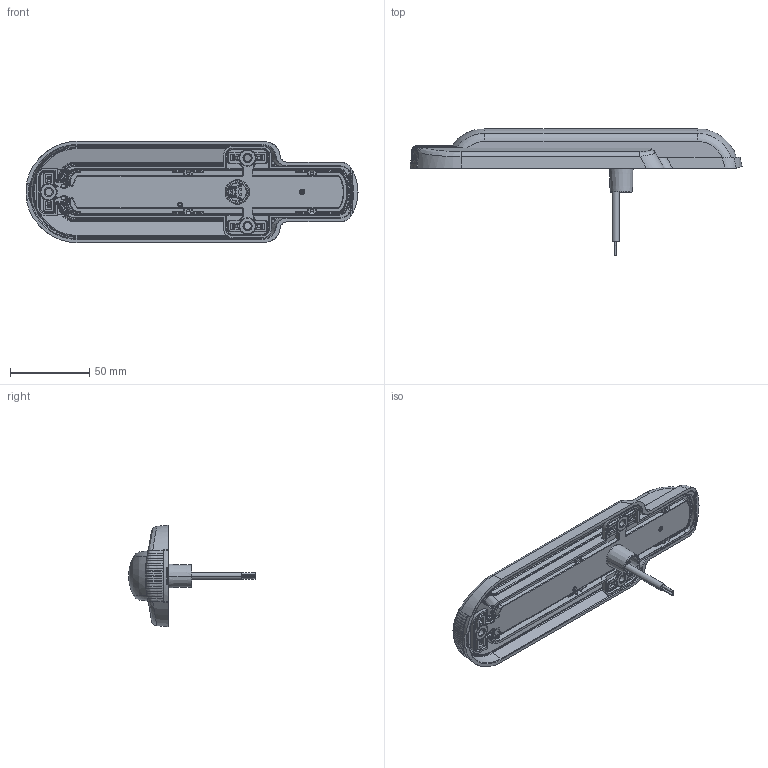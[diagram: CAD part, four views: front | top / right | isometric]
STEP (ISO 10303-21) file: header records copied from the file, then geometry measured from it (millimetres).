
FILE_DESCRIPTION(('CATIA V5 STEP Exchange','CAx-IF Rec.Pracs.--- Model Styling and Organization---1.5--- 2016-08-15','CAx-IF Rec.Pracs.---Supplemental Geometry---1.0---2011-11-01','CAx-IF Rec.Pracs.--- Composite Materials ---1.1---2010-07-15'),'2;1');
FILE_NAME('E:\tmp\ddx\2011205\3D_data_LED_aux_direction_indicator_lamp_cat-6_011-788_with_frame.stp','2022-01-18T06:58:30+00:00',('none'),('none'),'CATIA Version 5-6 Release 2020 SP3 HF9','CATIA V5 STEP AP214 Edition 3 v2','none');
FILE_SCHEMA(('AUTOMOTIVE_DESIGN { 1 0 10303 214 3 1 1 1 }'));
Products named in the file (1): 10001168838_D10_001
Bounding box: 209.49 x 80 x 64 mm (x, y, z)
Surface area: 64358.3 mm2 (no closed solid volume)
Topology: 0 solids, 934 shells, 3308 faces, 11064 edges, 8517 vertices
Faces by surface type: bspline 1685, cylinder 864, plane 452, sphere 158, torus 96, cone 53
Entity records: 236958 total; most frequent: CARTESIAN_POINT 164007, ORIENTED_EDGE 15813, EDGE_CURVE 10887, VERTEX_POINT 8498, B_SPLINE_CURVE_WITH_KNOTS 7685, DIRECTION 6192, EDGE_LOOP 3366, ADVANCED_FACE 3307
